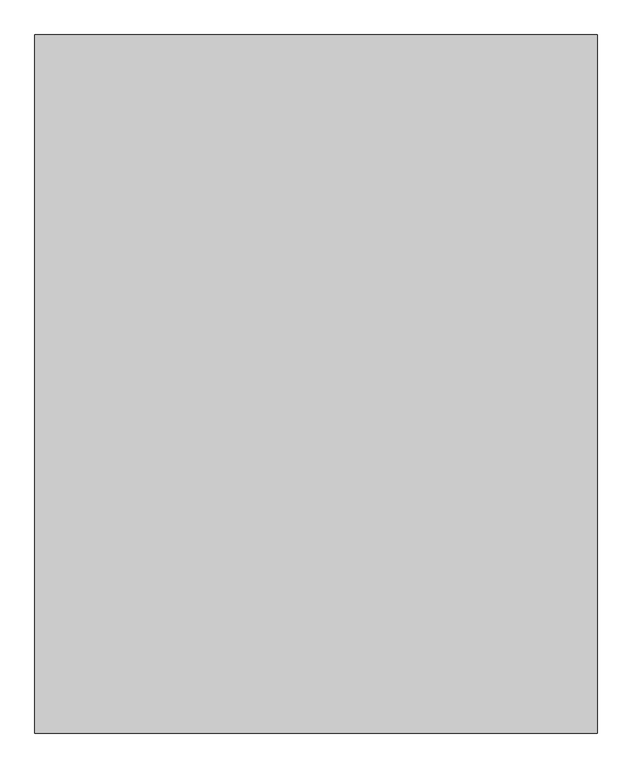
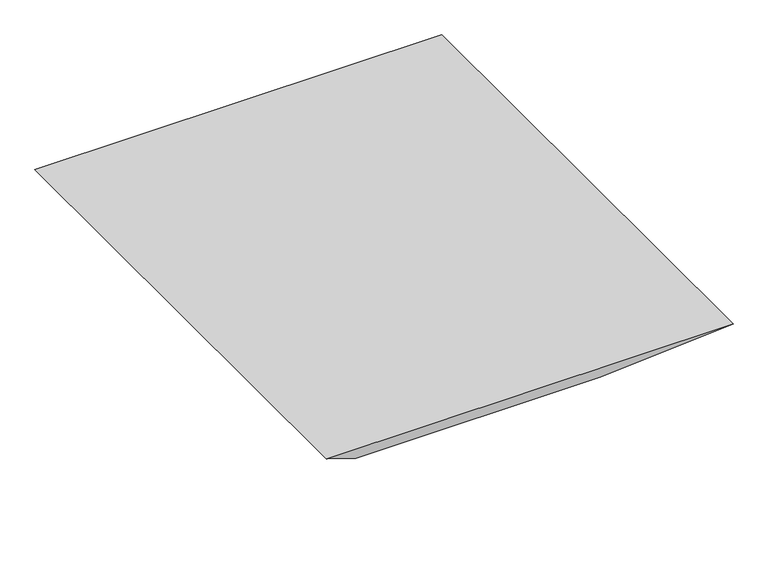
"""IFC4 building model written with IfcOpenShell, lengths in millimetres: proxy geometry, Auffüllung : Auffüllung."""

from ifc_helpers import new_model, si_unit, origin, place, context, project, spatial, faceted_brep, source, transform, mapped, element, save


def generic_models_dca9c4f5(model_context):
    return source(origin(), model_context, "Body", "Brep", [
        faceted_brep([(2490.0, 0.0, 0.0), (0.0, 0.0, 0.0), (0.0, -3090.0, 0.0), (2490.0, -3090.0, 0.0), (1995.0, -545.0, -500.0), (1995.0, -2545.0, -500.0), (495.0, -2545.0, -500.0), (495.0, -545.0, -500.0)], [[[0, 1, 2, 3]], [[4, 5, 6, 7]], [[4, 0, 3, 5]], [[5, 3, 2, 6]], [[6, 2, 1, 7]], [[7, 1, 0, 4]]]),
    ])


if __name__ == "__main__":
    model = new_model("IFC4")
    model_context = context("Model", 3, world=origin())
    ifc_project = project(units=[si_unit("LENGTHUNIT", "METRE", prefix="MILLI")], contexts=[model_context])
    site = spatial("IfcSite", under=ifc_project)
    building = spatial("IfcBuilding", under=site)
    placement = place(None, origin())
    generic_models_shape = generic_models_dca9c4f5(model_context)
    element("IfcBuildingElementProxy", 1, Name="Auffüllung : Auffüllung", ObjectType="Auffüllung : Auffüllung", at=placement, inside=building, context=model_context, shape_type="MappedRepresentation", body=[
        mapped(generic_models_shape, transform((0.0, 0.0, 0.0), x_axis=(1.0, 0.0, 0.0), y_axis=(0.0, 1.0, 0.0), z_axis=(0.0, 0.0, 1.0))),
    ])
    save(model, "model.ifc")
